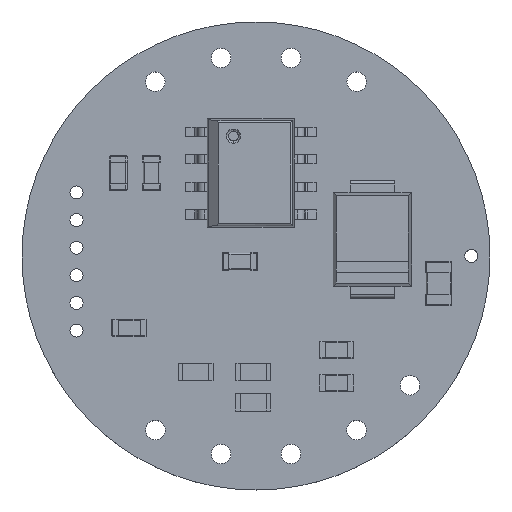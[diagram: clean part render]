
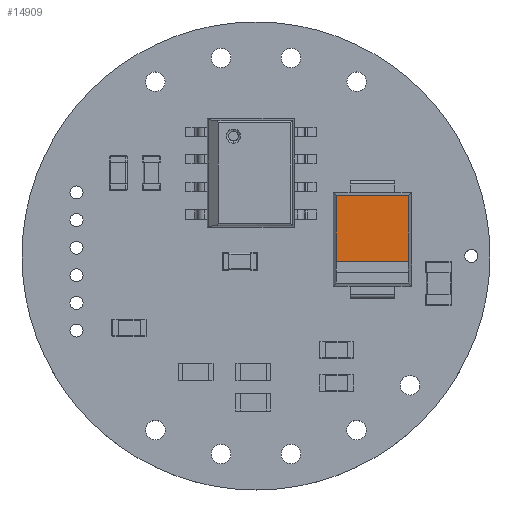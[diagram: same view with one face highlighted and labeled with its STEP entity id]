
A CAD part, top view. The second image highlights one B-rep face of the part: STEP entity #14909.
In plain terms, the highlighted planar face has unit normal (0, 0, 1).
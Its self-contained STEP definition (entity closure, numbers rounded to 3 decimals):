
#14394 = PLANE('',#14395);
#14395 = AXIS2_PLACEMENT_3D('',#14396,#14397,#14398);
#14396 = CARTESIAN_POINT('',(1.765,0.,0.248));
#14397 = DIRECTION('',(0.99,0.,0.139));
#14398 = DIRECTION('',(0.139,0.,-0.99));
#14445 = PLANE('',#14446);
#14446 = AXIS2_PLACEMENT_3D('',#14447,#14448,#14449);
#14447 = CARTESIAN_POINT('',(0.,-2.109,0.294));
#14448 = DIRECTION('',(0.,0.99,-0.138));
#14449 = DIRECTION('',(0.,0.138,0.99));
#14555 = PLANE('',#14556);
#14556 = AXIS2_PLACEMENT_3D('',#14557,#14558,#14559);
#14557 = CARTESIAN_POINT('',(-1.765,0.,0.248));
#14558 = DIRECTION('',(0.99,0.,-0.139));
#14559 = DIRECTION('',(-0.139,0.,-0.99));
#14673 = VERTEX_POINT('',#14674);
#14674 = CARTESIAN_POINT('',(1.659,1.011,1.003)
  );
#14690 = PLANE('',#14691);
#14691 = AXIS2_PLACEMENT_3D('',#14692,#14693,#14694);
#14692 = CARTESIAN_POINT('',(0.,0.,1.005));
#14693 = DIRECTION('',(0.,0.,1.));
#14694 = DIRECTION('',(1.,0.,0.));
#14703 = EDGE_CURVE('',#14673,#14704,#14706,.T.);
#14704 = VERTEX_POINT('',#14705);
#14705 = CARTESIAN_POINT('',(1.659,-2.011,1.)
  );
#14706 = SURFACE_CURVE('',#14707,(#14711,#14718),.PCURVE_S1.);
#14707 = LINE('',#14708,#14709);
#14708 = CARTESIAN_POINT('',(1.659,0.,1.));
#14709 = VECTOR('',#14710,1.);
#14710 = DIRECTION('',(0.,-1.,0.));
#14711 = PCURVE('',#14394,#14712);
#14712 = DEFINITIONAL_REPRESENTATION('',(#14713),#14717);
#14713 = LINE('',#14714,#14715);
#14714 = CARTESIAN_POINT('',(-0.759,0.));
#14715 = VECTOR('',#14716,1.);
#14716 = DIRECTION('',(0.,-1.));
#14717 = ( GEOMETRIC_REPRESENTATION_CONTEXT(2) 
PARAMETRIC_REPRESENTATION_CONTEXT() REPRESENTATION_CONTEXT('2D SPACE',''
  ) );
#14718 = PCURVE('',#14719,#14724);
#14719 = PLANE('',#14720);
#14720 = AXIS2_PLACEMENT_3D('',#14721,#14722,#14723);
#14721 = CARTESIAN_POINT('',(0.,0.,1.));
#14722 = DIRECTION('',(0.,0.,1.));
#14723 = DIRECTION('',(1.,0.,0.));
#14724 = DEFINITIONAL_REPRESENTATION('',(#14725),#14729);
#14725 = LINE('',#14726,#14727);
#14726 = CARTESIAN_POINT('',(1.659,0.));
#14727 = VECTOR('',#14728,1.);
#14728 = DIRECTION('',(0.,-1.));
#14729 = ( GEOMETRIC_REPRESENTATION_CONTEXT(2) 
PARAMETRIC_REPRESENTATION_CONTEXT() REPRESENTATION_CONTEXT('2D SPACE',''
  ) );
#14756 = EDGE_CURVE('',#14704,#14757,#14759,.T.);
#14757 = VERTEX_POINT('',#14758);
#14758 = CARTESIAN_POINT('',(-1.659,-2.011,1.
    ));
#14759 = SURFACE_CURVE('',#14760,(#14764,#14771),.PCURVE_S1.);
#14760 = LINE('',#14761,#14762);
#14761 = CARTESIAN_POINT('',(0.,-2.011,1.));
#14762 = VECTOR('',#14763,1.);
#14763 = DIRECTION('',(-1.,0.,0.));
#14764 = PCURVE('',#14445,#14765);
#14765 = DEFINITIONAL_REPRESENTATION('',(#14766),#14770);
#14766 = LINE('',#14767,#14768);
#14767 = CARTESIAN_POINT('',(0.713,0.));
#14768 = VECTOR('',#14769,1.);
#14769 = DIRECTION('',(0.,-1.));
#14770 = ( GEOMETRIC_REPRESENTATION_CONTEXT(2) 
PARAMETRIC_REPRESENTATION_CONTEXT() REPRESENTATION_CONTEXT('2D SPACE',''
  ) );
#14771 = PCURVE('',#14719,#14772);
#14772 = DEFINITIONAL_REPRESENTATION('',(#14773),#14777);
#14773 = LINE('',#14774,#14775);
#14774 = CARTESIAN_POINT('',(0.,-2.011));
#14775 = VECTOR('',#14776,1.);
#14776 = DIRECTION('',(-1.,0.));
#14777 = ( GEOMETRIC_REPRESENTATION_CONTEXT(2) 
PARAMETRIC_REPRESENTATION_CONTEXT() REPRESENTATION_CONTEXT('2D SPACE',''
  ) );
#14807 = EDGE_CURVE('',#14757,#14808,#14810,.T.);
#14808 = VERTEX_POINT('',#14809);
#14809 = CARTESIAN_POINT('',(-1.659,1.011,1.003)
  );
#14810 = SURFACE_CURVE('',#14811,(#14815,#14822),.PCURVE_S1.);
#14811 = LINE('',#14812,#14813);
#14812 = CARTESIAN_POINT('',(-1.659,0.,1.));
#14813 = VECTOR('',#14814,1.);
#14814 = DIRECTION('',(0.,1.,0.));
#14815 = PCURVE('',#14555,#14816);
#14816 = DEFINITIONAL_REPRESENTATION('',(#14817),#14821);
#14817 = LINE('',#14818,#14819);
#14818 = CARTESIAN_POINT('',(-0.759,0.));
#14819 = VECTOR('',#14820,1.);
#14820 = DIRECTION('',(0.,1.));
#14821 = ( GEOMETRIC_REPRESENTATION_CONTEXT(2) 
PARAMETRIC_REPRESENTATION_CONTEXT() REPRESENTATION_CONTEXT('2D SPACE',''
  ) );
#14822 = PCURVE('',#14719,#14823);
#14823 = DEFINITIONAL_REPRESENTATION('',(#14824),#14828);
#14824 = LINE('',#14825,#14826);
#14825 = CARTESIAN_POINT('',(-1.659,0.));
#14826 = VECTOR('',#14827,1.);
#14827 = DIRECTION('',(0.,1.));
#14828 = ( GEOMETRIC_REPRESENTATION_CONTEXT(2) 
PARAMETRIC_REPRESENTATION_CONTEXT() REPRESENTATION_CONTEXT('2D SPACE',''
  ) );
#14909 = ADVANCED_FACE('',(#14910),#14719,.T.);
#14910 = FACE_BOUND('',#14911,.T.);
#14911 = EDGE_LOOP('',(#14912,#14913,#14914,#14938));
#14912 = ORIENTED_EDGE('',*,*,#14756,.F.);
#14913 = ORIENTED_EDGE('',*,*,#14703,.F.);
#14914 = ORIENTED_EDGE('',*,*,#14915,.T.);
#14915 = EDGE_CURVE('',#14673,#14808,#14916,.T.);
#14916 = SURFACE_CURVE('',#14917,(#14922,#14930),.PCURVE_S1.);
#14917 = B_SPLINE_CURVE_WITH_KNOTS('',3,(#14918,#14919,#14920,#14921),
  .UNSPECIFIED.,.F.,.F.,(4,4),(0.,1.),.PIECEWISE_BEZIER_KNOTS.);
#14918 = CARTESIAN_POINT('',(1.659,1.011,1.003)
  );
#14919 = CARTESIAN_POINT('',(0.553,1.011,1.));
#14920 = CARTESIAN_POINT('',(-0.553,1.011,1.));
#14921 = CARTESIAN_POINT('',(-1.659,1.011,1.003)
  );
#14922 = PCURVE('',#14719,#14923);
#14923 = DEFINITIONAL_REPRESENTATION('',(#14924),#14929);
#14924 = B_SPLINE_CURVE_WITH_KNOTS('',3,(#14925,#14926,#14927,#14928),
  .UNSPECIFIED.,.F.,.F.,(4,4),(0.,1.),.PIECEWISE_BEZIER_KNOTS.);
#14925 = CARTESIAN_POINT('',(1.659,1.011));
#14926 = CARTESIAN_POINT('',(0.553,1.011));
#14927 = CARTESIAN_POINT('',(-0.553,1.011));
#14928 = CARTESIAN_POINT('',(-1.659,1.011));
#14929 = ( GEOMETRIC_REPRESENTATION_CONTEXT(2) 
PARAMETRIC_REPRESENTATION_CONTEXT() REPRESENTATION_CONTEXT('2D SPACE',''
  ) );
#14930 = PCURVE('',#14690,#14931);
#14931 = DEFINITIONAL_REPRESENTATION('',(#14932),#14937);
#14932 = B_SPLINE_CURVE_WITH_KNOTS('',3,(#14933,#14934,#14935,#14936),
  .UNSPECIFIED.,.F.,.F.,(4,4),(0.,1.),.PIECEWISE_BEZIER_KNOTS.);
#14933 = CARTESIAN_POINT('',(1.659,1.011));
#14934 = CARTESIAN_POINT('',(0.553,1.011));
#14935 = CARTESIAN_POINT('',(-0.553,1.011));
#14936 = CARTESIAN_POINT('',(-1.659,1.011));
#14937 = ( GEOMETRIC_REPRESENTATION_CONTEXT(2) 
PARAMETRIC_REPRESENTATION_CONTEXT() REPRESENTATION_CONTEXT('2D SPACE',''
  ) );
#14938 = ORIENTED_EDGE('',*,*,#14807,.F.);
